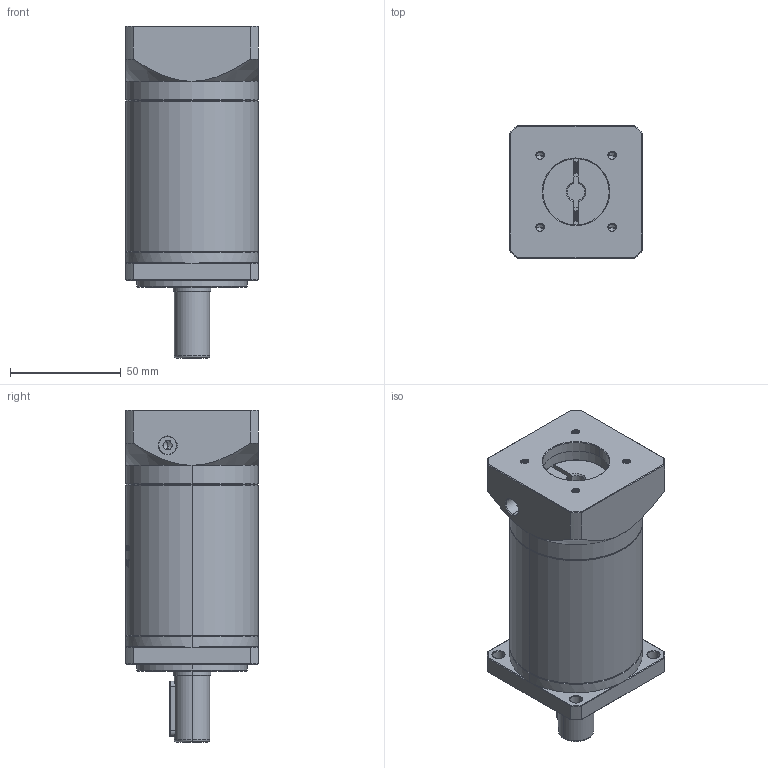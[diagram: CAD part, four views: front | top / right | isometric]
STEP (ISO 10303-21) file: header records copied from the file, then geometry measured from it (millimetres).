
FILE_DESCRIPTION (( 'STEP AP214' ), '1' );
FILE_NAME ('ZF060-D16-L3-P2-8-30-46-M4.step', '2023-08-16T04:29:15', ( '' ), ( '' ), 'SwSTEP 2.0', 'SolidWorks 2016', '' );
FILE_SCHEMA (( 'AUTOMOTIVE_DESIGN' ));
Length unit declared in the file: millimetre
Products named in the file (1): ZF060-D16-L3-P2-8-30-46-M4
Bounding box: 60 x 60 x 150 mm (x, y, z)
Volume: 328883 mm3; surface area: 51266.5 mm2
Topology: 6 solids, 6 shells, 1727 faces, 4678 edges, 3034 vertices
Faces by surface type: plane 794, bspline 354, cylinder 332, cone 229, torus 18
Entity records: 95971 total; most frequent: CARTESIAN_POINT 37662, ORIENTED_EDGE 9328, DIRECTION 6671, EDGE_CURVE 4664, VERTEX_POINT 3034, LINE 2367, VECTOR 2367, AXIS2_PLACEMENT_3D 2152
